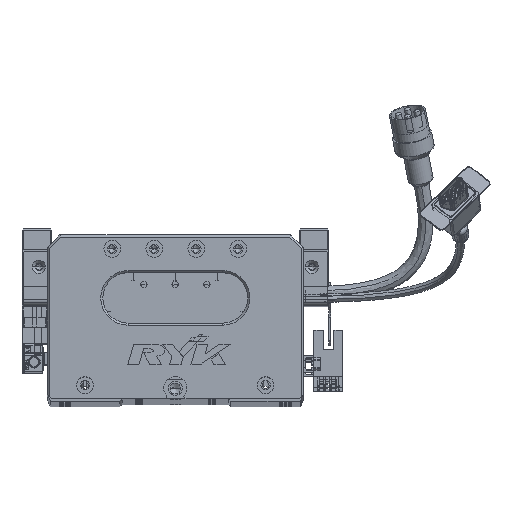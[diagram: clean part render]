
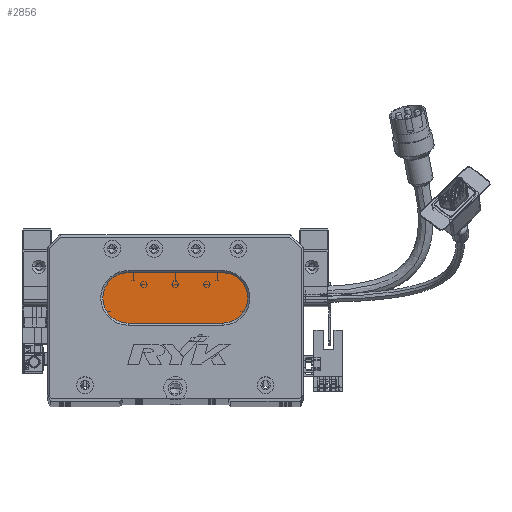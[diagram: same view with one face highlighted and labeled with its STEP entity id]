
A CAD part, top view. The second image highlights one B-rep face of the part: STEP entity #2856.
In plain terms, the highlighted planar face has unit normal (0, 0, 1) as drawn and (0, 0, -1) by its records, which use the part's own axes.
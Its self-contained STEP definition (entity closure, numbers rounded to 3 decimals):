
#836 = VERTEX_POINT ( 'NONE', #60988 ) ;
#1653 = EDGE_CURVE ( 'NONE', #81396, #65465, #86755, .T. ) ;
#2856 = ADVANCED_FACE ( 'NONE', ( #59194 ), #3441, .T. ) ;
#3441 = PLANE ( 'NONE',  #68009 ) ;
#5443 = CIRCLE ( 'NONE', #66523, 12. ) ;
#8338 = ORIENTED_EDGE ( 'NONE', *, *, #85347, .T. ) ;
#21101 = VERTEX_POINT ( 'NONE', #85436 ) ;
#21959 = VECTOR ( 'NONE', #73354, 1000. ) ;
#26216 = DIRECTION ( 'NONE',  ( -1., 0., 0. ) ) ;
#28251 = VECTOR ( 'NONE', #56907, 1000. ) ;
#33575 = CIRCLE ( 'NONE', #72848, 12. ) ;
#33782 = DIRECTION ( 'NONE',  ( -1., 0., 0. ) ) ;
#34109 = CARTESIAN_POINT ( 'NONE',  ( 38.5, 36., 13. ) ) ;
#34939 = EDGE_CURVE ( 'NONE', #21101, #836, #5443, .T. ) ;
#41002 = AXIS2_PLACEMENT_3D ( 'NONE', #93691, #79032, #33782 ) ;
#42615 = EDGE_CURVE ( 'NONE', #836, #67857, #81031, .T. ) ;
#44782 = LINE ( 'NONE', #51296, #21959 ) ;
#45412 = ORIENTED_EDGE ( 'NONE', *, *, #66011, .T. ) ;
#49591 = ORIENTED_EDGE ( 'NONE', *, *, #1653, .T. ) ;
#51296 = CARTESIAN_POINT ( 'NONE',  ( 83.5, 60., 13. ) ) ;
#53949 = DIRECTION ( 'NONE',  ( 0., 0., -1. ) ) ;
#56907 = DIRECTION ( 'NONE',  ( -1., 0., 0. ) ) ;
#56939 = ORIENTED_EDGE ( 'NONE', *, *, #42615, .T. ) ;
#59194 = FACE_OUTER_BOUND ( 'NONE', #76568, .T. ) ;
#60453 = DIRECTION ( 'NONE',  ( -1., 0., 0. ) ) ;
#60988 = CARTESIAN_POINT ( 'NONE',  ( 83.5, 36., 13. ) ) ;
#61113 = DIRECTION ( 'NONE',  ( 0., 0., -1. ) ) ;
#63742 = DIRECTION ( 'NONE',  ( 0., 0., -1. ) ) ;
#64216 = CARTESIAN_POINT ( 'NONE',  ( 83.5, 36., 13. ) ) ;
#65465 = VERTEX_POINT ( 'NONE', #75835 ) ;
#66011 = EDGE_CURVE ( 'NONE', #67857, #81396, #33575, .T. ) ;
#66523 = AXIS2_PLACEMENT_3D ( 'NONE', #75487, #61113, #60453 ) ;
#67857 = VERTEX_POINT ( 'NONE', #34109 ) ;
#68009 = AXIS2_PLACEMENT_3D ( 'NONE', #87148, #63742, #26216 ) ;
#69650 = DIRECTION ( 'NONE',  ( -1., 0., 0. ) ) ;
#72848 = AXIS2_PLACEMENT_3D ( 'NONE', #99117, #53949, #69650 ) ;
#73354 = DIRECTION ( 'NONE',  ( 1., 0., 0. ) ) ;
#75487 = CARTESIAN_POINT ( 'NONE',  ( 83.5, 48., 13. ) ) ;
#75835 = CARTESIAN_POINT ( 'NONE',  ( 38.5, 60., 13. ) ) ;
#76568 = EDGE_LOOP ( 'NONE', ( #84802, #56939, #45412, #49591, #8338 ) ) ;
#79032 = DIRECTION ( 'NONE',  ( 0., 0., -1. ) ) ;
#81031 = LINE ( 'NONE', #64216, #28251 ) ;
#81396 = VERTEX_POINT ( 'NONE', #84962 ) ;
#84802 = ORIENTED_EDGE ( 'NONE', *, *, #34939, .T. ) ;
#84962 = CARTESIAN_POINT ( 'NONE',  ( 26.5, 48., 13. ) ) ;
#85347 = EDGE_CURVE ( 'NONE', #65465, #21101, #44782, .T. ) ;
#85436 = CARTESIAN_POINT ( 'NONE',  ( 83.5, 60., 13. ) ) ;
#86755 = CIRCLE ( 'NONE', #41002, 12. ) ;
#87148 = CARTESIAN_POINT ( 'NONE',  ( 83.5, 48., 13. ) ) ;
#93691 = CARTESIAN_POINT ( 'NONE',  ( 38.5, 48., 13. ) ) ;
#99117 = CARTESIAN_POINT ( 'NONE',  ( 38.5, 48., 13. ) ) ;
